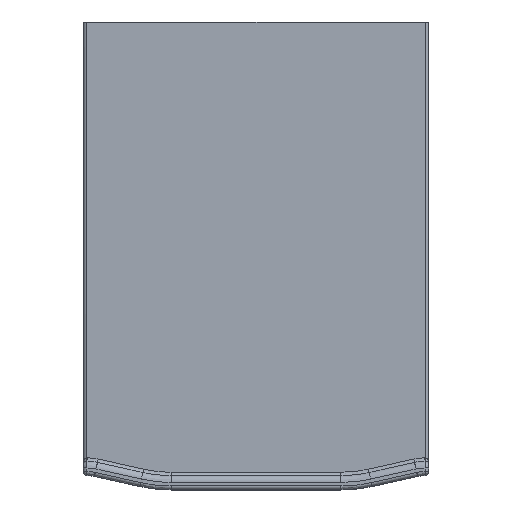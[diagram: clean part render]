
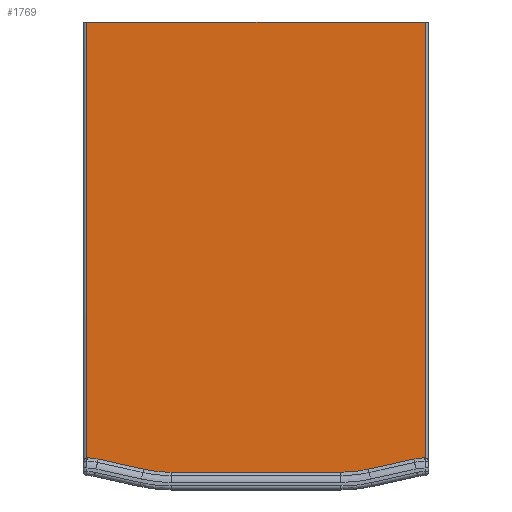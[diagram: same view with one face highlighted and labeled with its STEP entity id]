
A CAD part, top view. The second image highlights one B-rep face of the part: STEP entity #1769.
In plain terms, the highlighted planar face has unit normal (0, 0, 1).
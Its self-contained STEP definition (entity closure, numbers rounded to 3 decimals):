
#218 = ORIENTED_EDGE ( 'NONE', *, *, #6119, .T. ) ;
#312 = VECTOR ( 'NONE', #17282, 1000. ) ;
#590 = CARTESIAN_POINT ( 'NONE',  ( -32.916, -45.519, 117.85 ) ) ;
#671 = CARTESIAN_POINT ( 'NONE',  ( -32.385, -45.929, 117.85 ) ) ;
#718 = CARTESIAN_POINT ( 'NONE',  ( -33.945, -45.692, 117.85 ) ) ;
#754 = VECTOR ( 'NONE', #8751, 1000. ) ;
#764 = AXIS2_PLACEMENT_3D ( 'NONE', #8773, #15492, #6199 ) ;
#766 = CARTESIAN_POINT ( 'NONE',  ( -33.433, -45.578, 117.85 ) ) ;
#846 = VERTEX_POINT ( 'NONE', #17224 ) ;
#847 = DIRECTION ( 'NONE',  ( 0., -1., 0. ) ) ;
#897 = ORIENTED_EDGE ( 'NONE', *, *, #11286, .T. ) ;
#1087 = VERTEX_POINT ( 'NONE', #4492 ) ;
#1297 = VERTEX_POINT ( 'NONE', #14179 ) ;
#1407 = CARTESIAN_POINT ( 'NONE',  ( -79.385, -45.515, 117.85 ) ) ;
#1424 = EDGE_CURVE ( 'NONE', #14523, #2231, #9255, .T. ) ;
#1460 = CARTESIAN_POINT ( 'NONE',  ( -79.383, -45.515, 117.85 ) ) ;
#1492 = ORIENTED_EDGE ( 'NONE', *, *, #15821, .T. ) ;
#1527 = LINE ( 'NONE', #671, #7212 ) ;
#1769 = ADVANCED_FACE ( 'NONE', ( #10180 ), #8829, .T. ) ;
#1987 = VECTOR ( 'NONE', #17400, 1000. ) ;
#2135 = CARTESIAN_POINT ( 'NONE',  ( -79.385, 15.071, 117.85 ) ) ;
#2231 = VERTEX_POINT ( 'NONE', #9051 ) ;
#2789 = B_SPLINE_CURVE_WITH_KNOTS ( 'NONE', 3,
 ( #10611, #10490, #3911, #3744 ),
 .UNSPECIFIED., .F., .F.,
 ( 4, 4 ),
 ( 0., 1. ),
 .UNSPECIFIED. ) ;
#2839 = CARTESIAN_POINT ( 'NONE',  ( -40.266, -47.096, 117.85 ) ) ;
#3217 = EDGE_CURVE ( 'NONE', #4399, #1297, #13192, .T. ) ;
#3320 = CARTESIAN_POINT ( 'NONE',  ( -77.826, -45.692, 117.85 ) ) ;
#3452 = ORIENTED_EDGE ( 'NONE', *, *, #7117, .T. ) ;
#3694 = LINE ( 'NONE', #15916, #312 ) ;
#3744 = CARTESIAN_POINT ( 'NONE',  ( -77.826, -45.692, 117.85 ) ) ;
#3829 = ORIENTED_EDGE ( 'NONE', *, *, #3217, .T. ) ;
#3911 = CARTESIAN_POINT ( 'NONE',  ( -78.337, -45.578, 117.85 ) ) ;
#4243 = ORIENTED_EDGE ( 'NONE', *, *, #1424, .T. ) ;
#4399 = VERTEX_POINT ( 'NONE', #6567 ) ;
#4492 = CARTESIAN_POINT ( 'NONE',  ( -40.266, -47.096, 117.85 ) ) ;
#5080 = EDGE_LOOP ( 'NONE', ( #3829, #218, #15549, #12685, #10462, #12734, #6726, #5729, #4243, #3452, #1492, #897 ) ) ;
#5729 = ORIENTED_EDGE ( 'NONE', *, *, #10496, .T. ) ;
#6075 = CARTESIAN_POINT ( 'NONE',  ( -79.385, -45.515, 117.85 ) ) ;
#6119 = EDGE_CURVE ( 'NONE', #1297, #10574, #7304, .T. ) ;
#6199 = DIRECTION ( 'NONE',  ( 0., -1., 0. ) ) ;
#6308 = CARTESIAN_POINT ( 'NONE',  ( -70.248, -47.376, 117.85 ) ) ;
#6379 = CARTESIAN_POINT ( 'NONE',  ( -79.385, 75.761, 117.85 ) ) ;
#6395 = CARTESIAN_POINT ( 'NONE',  ( -79.38, -45.515, 117.85 ) ) ;
#6567 = CARTESIAN_POINT ( 'NONE',  ( -33.945, -45.692, 117.85 ) ) ;
#6576 = LINE ( 'NONE', #2839, #1987 ) ;
#6596 = CARTESIAN_POINT ( 'NONE',  ( -79.378, -45.515, 117.85 ) ) ;
#6691 = B_SPLINE_CURVE_WITH_KNOTS ( 'NONE', 3,
 ( #1407, #1460, #6395, #14810 ),
 .UNSPECIFIED., .F., .F.,
 ( 4, 4 ),
 ( 0., 1. ),
 .UNSPECIFIED. ) ;
#6726 = ORIENTED_EDGE ( 'NONE', *, *, #13330, .T. ) ;
#7117 = EDGE_CURVE ( 'NONE', #2231, #846, #8555, .T. ) ;
#7212 = VECTOR ( 'NONE', #847, 1000. ) ;
#7304 = B_SPLINE_CURVE_WITH_KNOTS ( 'NONE', 3,
 ( #7607, #17014, #10589, #11870 ),
 .UNSPECIFIED., .F., .F.,
 ( 4, 4 ),
 ( 0., 1. ),
 .UNSPECIFIED. ) ;
#7607 = CARTESIAN_POINT ( 'NONE',  ( -32.392, -45.515, 117.85 ) ) ;
#8271 = CARTESIAN_POINT ( 'NONE',  ( -67.69, -47.515, 117.85 ) ) ;
#8555 = LINE ( 'NONE', #9295, #8757 ) ;
#8581 = EDGE_CURVE ( 'NONE', #14924, #10574, #1527, .T. ) ;
#8751 = DIRECTION ( 'NONE',  ( 0.976, -0.217, 0. ) ) ;
#8757 = VECTOR ( 'NONE', #9577, 1000. ) ;
#8773 = CARTESIAN_POINT ( 'NONE',  ( -81.885, 75.761, 117.85 ) ) ;
#8829 = PLANE ( 'NONE',  #764 ) ;
#8948 = CARTESIAN_POINT ( 'NONE',  ( -71.505, -47.096, 117.85 ) ) ;
#9051 = CARTESIAN_POINT ( 'NONE',  ( -67.69, -47.515, 117.85 ) ) ;
#9255 = B_SPLINE_CURVE_WITH_KNOTS ( 'NONE', 3,
 ( #8948, #6308, #10306, #8271 ),
 .UNSPECIFIED., .F., .F.,
 ( 4, 4 ),
 ( 0., 1. ),
 .UNSPECIFIED. ) ;
#9295 = CARTESIAN_POINT ( 'NONE',  ( -81.885, -47.515, 117.85 ) ) ;
#9485 = VERTEX_POINT ( 'NONE', #6075 ) ;
#9577 = DIRECTION ( 'NONE',  ( 1., 0., 0. ) ) ;
#9617 = EDGE_CURVE ( 'NONE', #9485, #10530, #13870, .T. ) ;
#10048 = CARTESIAN_POINT ( 'NONE',  ( -32.392, -45.515, 117.85 ) ) ;
#10180 = FACE_OUTER_BOUND ( 'NONE', #5080, .T. ) ;
#10283 = VECTOR ( 'NONE', #15850, 1000. ) ;
#10306 = CARTESIAN_POINT ( 'NONE',  ( -68.977, -47.515, 117.85 ) ) ;
#10462 = ORIENTED_EDGE ( 'NONE', *, *, #9617, .F. ) ;
#10490 = CARTESIAN_POINT ( 'NONE',  ( -78.854, -45.519, 117.85 ) ) ;
#10496 = EDGE_CURVE ( 'NONE', #13030, #14523, #13803, .T. ) ;
#10530 = VERTEX_POINT ( 'NONE', #2135 ) ;
#10574 = VERTEX_POINT ( 'NONE', #14040 ) ;
#10589 = CARTESIAN_POINT ( 'NONE',  ( -32.388, -45.515, 117.85 ) ) ;
#10611 = CARTESIAN_POINT ( 'NONE',  ( -79.378, -45.515, 117.85 ) ) ;
#11286 = EDGE_CURVE ( 'NONE', #1087, #4399, #6576, .T. ) ;
#11582 = CARTESIAN_POINT ( 'NONE',  ( -41.522, -47.376, 117.85 ) ) ;
#11693 = VERTEX_POINT ( 'NONE', #6596 ) ;
#11870 = CARTESIAN_POINT ( 'NONE',  ( -32.385, -45.515, 117.85 ) ) ;
#12685 = ORIENTED_EDGE ( 'NONE', *, *, #15450, .T. ) ;
#12734 = ORIENTED_EDGE ( 'NONE', *, *, #12859, .T. ) ;
#12859 = EDGE_CURVE ( 'NONE', #9485, #11693, #6691, .T. ) ;
#12957 = B_SPLINE_CURVE_WITH_KNOTS ( 'NONE', 3,
 ( #14122, #14181, #11582, #16911 ),
 .UNSPECIFIED., .F., .F.,
 ( 4, 4 ),
 ( 0., 1. ),
 .UNSPECIFIED. ) ;
#13030 = VERTEX_POINT ( 'NONE', #14979 ) ;
#13192 = B_SPLINE_CURVE_WITH_KNOTS ( 'NONE', 3,
 ( #718, #766, #590, #10048 ),
 .UNSPECIFIED., .F., .F.,
 ( 4, 4 ),
 ( 0., 1. ),
 .UNSPECIFIED. ) ;
#13330 = EDGE_CURVE ( 'NONE', #11693, #13030, #2789, .T. ) ;
#13803 = LINE ( 'NONE', #3320, #754 ) ;
#13870 = LINE ( 'NONE', #6379, #10283 ) ;
#14040 = CARTESIAN_POINT ( 'NONE',  ( -32.385, -45.515, 117.85 ) ) ;
#14122 = CARTESIAN_POINT ( 'NONE',  ( -44.081, -47.515, 117.85 ) ) ;
#14179 = CARTESIAN_POINT ( 'NONE',  ( -32.392, -45.515, 117.85 ) ) ;
#14181 = CARTESIAN_POINT ( 'NONE',  ( -42.794, -47.515, 117.85 ) ) ;
#14523 = VERTEX_POINT ( 'NONE', #14772 ) ;
#14688 = CARTESIAN_POINT ( 'NONE',  ( -32.385, 15.071, 117.85 ) ) ;
#14772 = CARTESIAN_POINT ( 'NONE',  ( -71.505, -47.096, 117.85 ) ) ;
#14810 = CARTESIAN_POINT ( 'NONE',  ( -79.378, -45.515, 117.85 ) ) ;
#14924 = VERTEX_POINT ( 'NONE', #14688 ) ;
#14979 = CARTESIAN_POINT ( 'NONE',  ( -77.826, -45.692, 117.85 ) ) ;
#15450 = EDGE_CURVE ( 'NONE', #14924, #10530, #3694, .T. ) ;
#15492 = DIRECTION ( 'NONE',  ( 0., 0., 1. ) ) ;
#15549 = ORIENTED_EDGE ( 'NONE', *, *, #8581, .F. ) ;
#15821 = EDGE_CURVE ( 'NONE', #846, #1087, #12957, .T. ) ;
#15850 = DIRECTION ( 'NONE',  ( 0., 1., 0. ) ) ;
#15916 = CARTESIAN_POINT ( 'NONE',  ( -81.885, 15.071, 117.85 ) ) ;
#16911 = CARTESIAN_POINT ( 'NONE',  ( -40.266, -47.096, 117.85 ) ) ;
#17014 = CARTESIAN_POINT ( 'NONE',  ( -32.39, -45.515, 117.85 ) ) ;
#17224 = CARTESIAN_POINT ( 'NONE',  ( -44.081, -47.515, 117.85 ) ) ;
#17282 = DIRECTION ( 'NONE',  ( -1., 0., 0. ) ) ;
#17400 = DIRECTION ( 'NONE',  ( 0.976, 0.217, 0. ) ) ;
